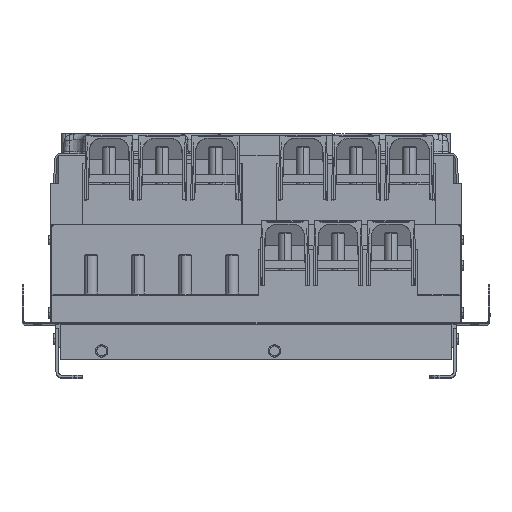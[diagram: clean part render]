
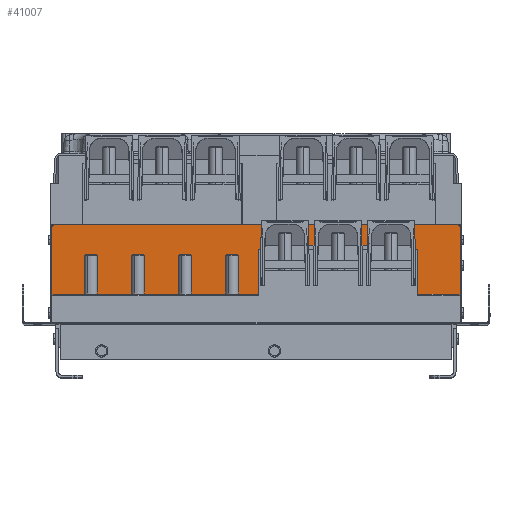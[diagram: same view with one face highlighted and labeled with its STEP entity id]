
A CAD part, top view. The second image highlights one B-rep face of the part: STEP entity #41007.
In plain terms, the highlighted planar face has unit normal (0, 0, 1).
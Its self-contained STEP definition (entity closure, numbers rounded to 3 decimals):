
#395 = DIRECTION ( 'NONE',  ( 0.707, 0.707, 0. ) ) ;
#2303 = ORIENTED_EDGE ( 'NONE', *, *, #87527, .T. ) ;
#3521 = DIRECTION ( 'NONE',  ( 1., 0., 0. ) ) ;
#3954 = CARTESIAN_POINT ( 'NONE',  ( 5.803, 89., 179. ) ) ;
#4654 = ORIENTED_EDGE ( 'NONE', *, *, #91888, .F. ) ;
#7234 = ORIENTED_EDGE ( 'NONE', *, *, #59754, .T. ) ;
#8290 = CARTESIAN_POINT ( 'NONE',  ( 243., 115., 179. ) ) ;
#10050 = VECTOR ( 'NONE', #78017, 1000. ) ;
#10831 = CARTESIAN_POINT ( 'NONE',  ( 2.806, 89., 179. ) ) ;
#12326 = VECTOR ( 'NONE', #90154, 1000. ) ;
#14758 = LINE ( 'NONE', #73184, #72658 ) ;
#15304 = AXIS2_PLACEMENT_3D ( 'NONE', #8290, #86422, #29392 ) ;
#16918 = EDGE_CURVE ( 'NONE', #77656, #47100, #93915, .T. ) ;
#17171 = VECTOR ( 'NONE', #78814, 1000. ) ;
#18040 = VECTOR ( 'NONE', #50703, 1000. ) ;
#18060 = CARTESIAN_POINT ( 'NONE',  ( 245., 35., 179. ) ) ;
#18829 = DIRECTION ( 'NONE',  ( 0., 0., 1. ) ) ;
#19901 = CARTESIAN_POINT ( 'NONE',  ( 190.479, 89., 179. ) ) ;
#20467 = ORIENTED_EDGE ( 'NONE', *, *, #62904, .T. ) ;
#20763 = CARTESIAN_POINT ( 'NONE',  ( 192.423, 94.2, 179. ) ) ;
#21086 = ORIENTED_EDGE ( 'NONE', *, *, #73686, .T. ) ;
#21467 = DIRECTION ( 'NONE',  ( 0., -1., 0. ) ) ;
#21662 = DIRECTION ( 'NONE',  ( 0., 0., -1. ) ) ;
#21866 = ORIENTED_EDGE ( 'NONE', *, *, #65341, .T. ) ;
#22351 = VERTEX_POINT ( 'NONE', #54697 ) ;
#23428 = CARTESIAN_POINT ( 'NONE',  ( 195.511, 89., 179. ) ) ;
#24587 = CARTESIAN_POINT ( 'NONE',  ( -247., 31., 179. ) ) ;
#24832 = EDGE_LOOP ( 'NONE', ( #59241, #20467, #88747, #21866, #2303, #21086, #64529, #68852, #73365, #59374, #4654, #27695, #7234, #34578, #83142, #73924 ) ) ;
#25715 = DIRECTION ( 'NONE',  ( 0., 1., 0. ) ) ;
#26006 = CIRCLE ( 'NONE', #15304, 4. ) ;
#26766 = LINE ( 'NONE', #44925, #94334 ) ;
#27695 = ORIENTED_EDGE ( 'NONE', *, *, #39938, .F. ) ;
#28194 = VERTEX_POINT ( 'NONE', #3954 ) ;
#28232 = LINE ( 'NONE', #57461, #55691 ) ;
#28678 = CARTESIAN_POINT ( 'NONE',  ( 2.806, 35., 179. ) ) ;
#28793 = CARTESIAN_POINT ( 'NONE',  ( 245., 35., 179. ) ) ;
#28807 = VECTOR ( 'NONE', #35537, 1000. ) ;
#29392 = DIRECTION ( 'NONE',  ( 1., 0., 0. ) ) ;
#29608 = CARTESIAN_POINT ( 'NONE',  ( -243., 119., 179. ) ) ;
#29738 = CARTESIAN_POINT ( 'NONE',  ( -247., 35., 179. ) ) ;
#31936 = EDGE_CURVE ( 'NONE', #38904, #28194, #61677, .T. ) ;
#32013 = AXIS2_PLACEMENT_3D ( 'NONE', #24587, #18829, #3521 ) ;
#32863 = LINE ( 'NONE', #19901, #68141 ) ;
#33833 = DIRECTION ( 'NONE',  ( 1., 0., 0. ) ) ;
#34516 = VERTEX_POINT ( 'NONE', #73906 ) ;
#34578 = ORIENTED_EDGE ( 'NONE', *, *, #62647, .T. ) ;
#34659 = CARTESIAN_POINT ( 'NONE',  ( -243., 115., 179. ) ) ;
#35537 = DIRECTION ( 'NONE',  ( 1., 0., 0. ) ) ;
#37030 = CARTESIAN_POINT ( 'NONE',  ( -247., 33., 179. ) ) ;
#37040 = CARTESIAN_POINT ( 'NONE',  ( 192.514, 89., 179. ) ) ;
#37595 = VERTEX_POINT ( 'NONE', #62271 ) ;
#38904 = VERTEX_POINT ( 'NONE', #48681 ) ;
#39152 = CARTESIAN_POINT ( 'NONE',  ( -44.533, 94.2, 179. ) ) ;
#39204 = LINE ( 'NONE', #60730, #55009 ) ;
#39437 = LINE ( 'NONE', #48439, #12326 ) ;
#39938 = EDGE_CURVE ( 'NONE', #93681, #64841, #39204, .T. ) ;
#41007 = ADVANCED_FACE ( 'NONE', ( #61495 ), #90702, .T. ) ;
#41068 = LINE ( 'NONE', #39152, #50611 ) ;
#44467 = LINE ( 'NONE', #29608, #18040 ) ;
#44869 = VERTEX_POINT ( 'NONE', #20763 ) ;
#44925 = CARTESIAN_POINT ( 'NONE',  ( -245., 35., 179. ) ) ;
#46861 = VERTEX_POINT ( 'NONE', #37040 ) ;
#47100 = VERTEX_POINT ( 'NONE', #65142 ) ;
#47984 = VECTOR ( 'NONE', #55898, 1000. ) ;
#48439 = CARTESIAN_POINT ( 'NONE',  ( -247., 35., 179. ) ) ;
#48681 = CARTESIAN_POINT ( 'NONE',  ( 5.894, 94.2, 179. ) ) ;
#48940 = EDGE_CURVE ( 'NONE', #68254, #78191, #26006, .T. ) ;
#50611 = VECTOR ( 'NONE', #61143, 1000. ) ;
#50703 = DIRECTION ( 'NONE',  ( 1., 0., 0. ) ) ;
#50738 = EDGE_CURVE ( 'NONE', #44869, #46861, #59790, .T. ) ;
#50874 = DIRECTION ( 'NONE',  ( 1., 0., 0. ) ) ;
#51855 = CARTESIAN_POINT ( 'NONE',  ( 243., 119., 179. ) ) ;
#54697 = CARTESIAN_POINT ( 'NONE',  ( -243., 119., 179. ) ) ;
#54846 = EDGE_CURVE ( 'NONE', #34516, #87343, #71302, .T. ) ;
#55009 = VECTOR ( 'NONE', #25715, 1000. ) ;
#55691 = VECTOR ( 'NONE', #56990, 1000. ) ;
#55898 = DIRECTION ( 'NONE',  ( -0.017, -1., 0. ) ) ;
#56876 = VECTOR ( 'NONE', #66949, 1000. ) ;
#56990 = DIRECTION ( 'NONE',  ( 1., 0., 0. ) ) ;
#57350 = EDGE_CURVE ( 'NONE', #22351, #68254, #44467, .T. ) ;
#57461 = CARTESIAN_POINT ( 'NONE',  ( 2.806, 89., 179. ) ) ;
#57533 = DIRECTION ( 'NONE',  ( 0.707, -0.707, 0. ) ) ;
#58354 = CARTESIAN_POINT ( 'NONE',  ( 192.965, 63.129, 179. ) ) ;
#59241 = ORIENTED_EDGE ( 'NONE', *, *, #31936, .F. ) ;
#59374 = ORIENTED_EDGE ( 'NONE', *, *, #57350, .F. ) ;
#59754 = EDGE_CURVE ( 'NONE', #93681, #37595, #26766, .T. ) ;
#59790 = LINE ( 'NONE', #58354, #56876 ) ;
#60730 = CARTESIAN_POINT ( 'NONE',  ( -247., 1., 179. ) ) ;
#61143 = DIRECTION ( 'NONE',  ( 1., 0., 0. ) ) ;
#61495 = FACE_OUTER_BOUND ( 'NONE', #24832, .T. ) ;
#61677 = LINE ( 'NONE', #70724, #47984 ) ;
#62271 = CARTESIAN_POINT ( 'NONE',  ( -245., 35., 179. ) ) ;
#62647 = EDGE_CURVE ( 'NONE', #37595, #34516, #39437, .T. ) ;
#62904 = EDGE_CURVE ( 'NONE', #38904, #44869, #41068, .T. ) ;
#64529 = ORIENTED_EDGE ( 'NONE', *, *, #16918, .T. ) ;
#64841 = VERTEX_POINT ( 'NONE', #79092 ) ;
#65142 = CARTESIAN_POINT ( 'NONE',  ( 247., 33., 179. ) ) ;
#65258 = CIRCLE ( 'NONE', #94325, 4. ) ;
#65341 = EDGE_CURVE ( 'NONE', #46861, #92473, #32863, .T. ) ;
#66949 = DIRECTION ( 'NONE',  ( 0.017, -1., 0. ) ) ;
#68141 = VECTOR ( 'NONE', #33833, 1000. ) ;
#68254 = VERTEX_POINT ( 'NONE', #51855 ) ;
#68852 = ORIENTED_EDGE ( 'NONE', *, *, #79304, .F. ) ;
#70724 = CARTESIAN_POINT ( 'NONE',  ( 5.351, 63.129, 179. ) ) ;
#71139 = CARTESIAN_POINT ( 'NONE',  ( 195.511, 89., 179. ) ) ;
#71302 = LINE ( 'NONE', #28678, #10050 ) ;
#72363 = LINE ( 'NONE', #29738, #28807 ) ;
#72658 = VECTOR ( 'NONE', #21467, 1000. ) ;
#73184 = CARTESIAN_POINT ( 'NONE',  ( 247., 115., 179. ) ) ;
#73365 = ORIENTED_EDGE ( 'NONE', *, *, #48940, .F. ) ;
#73686 = EDGE_CURVE ( 'NONE', #83275, #77656, #72363, .T. ) ;
#73906 = CARTESIAN_POINT ( 'NONE',  ( 2.806, 35., 179. ) ) ;
#73924 = ORIENTED_EDGE ( 'NONE', *, *, #89694, .T. ) ;
#77656 = VERTEX_POINT ( 'NONE', #18060 ) ;
#78017 = DIRECTION ( 'NONE',  ( 0., 1., 0. ) ) ;
#78191 = VERTEX_POINT ( 'NONE', #91690 ) ;
#78814 = DIRECTION ( 'NONE',  ( 0., -1., 0. ) ) ;
#79092 = CARTESIAN_POINT ( 'NONE',  ( -247., 115., 179. ) ) ;
#79304 = EDGE_CURVE ( 'NONE', #78191, #47100, #14758, .T. ) ;
#80510 = VECTOR ( 'NONE', #57533, 1000. ) ;
#83142 = ORIENTED_EDGE ( 'NONE', *, *, #54846, .T. ) ;
#83275 = VERTEX_POINT ( 'NONE', #92011 ) ;
#86422 = DIRECTION ( 'NONE',  ( 0., 0., -1. ) ) ;
#87343 = VERTEX_POINT ( 'NONE', #10831 ) ;
#87527 = EDGE_CURVE ( 'NONE', #92473, #83275, #91776, .T. ) ;
#88747 = ORIENTED_EDGE ( 'NONE', *, *, #50738, .T. ) ;
#89694 = EDGE_CURVE ( 'NONE', #87343, #28194, #28232, .T. ) ;
#90154 = DIRECTION ( 'NONE',  ( 1., 0., 0. ) ) ;
#90702 = PLANE ( 'NONE',  #32013 ) ;
#91690 = CARTESIAN_POINT ( 'NONE',  ( 247., 115., 179. ) ) ;
#91776 = LINE ( 'NONE', #71139, #17171 ) ;
#91888 = EDGE_CURVE ( 'NONE', #64841, #22351, #65258, .T. ) ;
#92011 = CARTESIAN_POINT ( 'NONE',  ( 195.511, 35., 179. ) ) ;
#92473 = VERTEX_POINT ( 'NONE', #23428 ) ;
#93681 = VERTEX_POINT ( 'NONE', #37030 ) ;
#93915 = LINE ( 'NONE', #28793, #80510 ) ;
#94325 = AXIS2_PLACEMENT_3D ( 'NONE', #34659, #21662, #50874 ) ;
#94334 = VECTOR ( 'NONE', #395, 1000. ) ;
